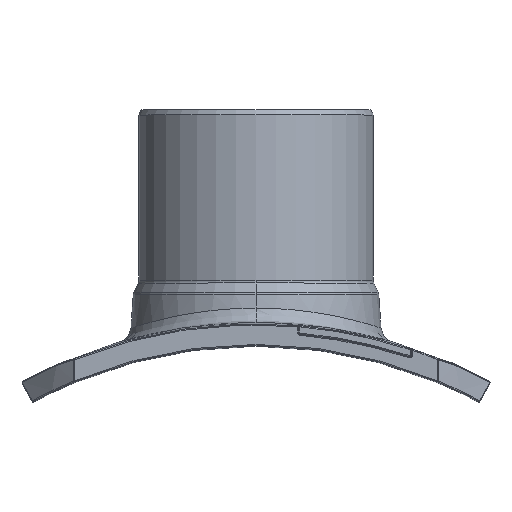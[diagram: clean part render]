
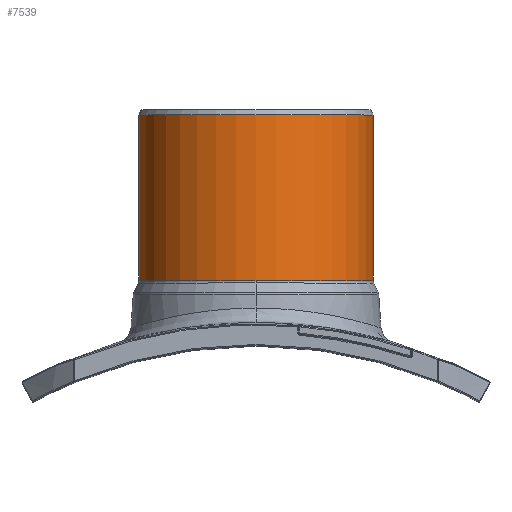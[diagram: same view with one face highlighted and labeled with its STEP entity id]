
A CAD part, top view. The second image highlights one B-rep face of the part: STEP entity #7539.
In plain terms, the highlighted cylindrical face has radius 112.5 mm (diameter 225 mm), a partial arc.
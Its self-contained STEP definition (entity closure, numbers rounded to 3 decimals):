
#1528=CARTESIAN_POINT('',(0.,512.083,0.));
#1529=DIRECTION('',(0.,-1.,0.));
#1530=DIRECTION('',(1.,0.,0.));
#1531=AXIS2_PLACEMENT_3D('',#1528,#1529,#1530);
#1536=CARTESIAN_POINT('',(0.,512.083,0.));
#1537=DIRECTION('',(0.,-1.,0.));
#1538=DIRECTION('',(0.,0.,1.));
#1539=AXIS2_PLACEMENT_3D('',#1536,#1537,#1538);
#1544=DIRECTION('',(0.,-1.,0.));
#1545=VECTOR('',#1544,158.917);
#1546=CARTESIAN_POINT('',(-112.5,671.,0.));
#1547=LINE('151588',#1546,#1545);
#1551=DIRECTION('',(0.,-1.,0.));
#1552=VECTOR('',#1551,158.917);
#1553=CARTESIAN_POINT('',(112.5,671.,0.));
#1554=LINE('151587',#1553,#1552);
#1605=CARTESIAN_POINT('',(0.,671.,0.));
#1606=DIRECTION('',(0.,1.,0.));
#1607=DIRECTION('',(-1.,0.,0.));
#1608=AXIS2_PLACEMENT_3D('',#1605,#1606,#1607);
#5966=CARTESIAN_POINT('',(112.5,671.,0.));
#5967=CARTESIAN_POINT('',(-112.5,671.,0.));
#5968=VERTEX_POINT('',#5966);
#5969=VERTEX_POINT('',#5967);
#5990=CARTESIAN_POINT('',(112.5,512.083,0.));
#5991=CARTESIAN_POINT('',(0.,512.083,112.5));
#5992=VERTEX_POINT('',#5990);
#5993=VERTEX_POINT('',#5991);
#5994=CARTESIAN_POINT('',(-112.5,512.083,0.));
#5995=VERTEX_POINT('',#5994);
#7524=CARTESIAN_POINT('',(0.,676.,0.));
#7525=DIRECTION('',(0.,1.,0.));
#7526=DIRECTION('',(1.,0.,0.));
#7527=AXIS2_PLACEMENT_3D('',#7524,#7525,#7526);
#7528=CYLINDRICAL_SURFACE('4584',#7527,112.5);
#7529=ORIENTED_EDGE('151579',*,*,#7501,.T.);
#7530=ORIENTED_EDGE('151581',*,*,#7516,.T.);
#7532=ORIENTED_EDGE('151588',*,*,#7531,.F.);
#7534=ORIENTED_EDGE('4600',*,*,#7533,.T.);
#7536=ORIENTED_EDGE('151587',*,*,#7535,.T.);
#7537=EDGE_LOOP('4584',(#7529,#7530,#7532,#7534,#7536));
#7538=FACE_OUTER_BOUND('4584',#7537,.F.);
#1532=CIRCLE('151579',#1531,112.5);
#1540=CIRCLE('151581',#1539,112.5);
#1609=CIRCLE('4600',#1608,112.5);
#7501=EDGE_CURVE('151579',#5992,#5993,#1532,.T.);
#7516=EDGE_CURVE('151581',#5993,#5995,#1540,.T.);
#7531=EDGE_CURVE('151588',#5969,#5995,#1547,.T.);
#7533=EDGE_CURVE('4600',#5969,#5968,#1609,.T.);
#7535=EDGE_CURVE('151587',#5968,#5992,#1554,.T.);
#7539=ADVANCED_FACE('4584',(#7538),#7528,.T.);
